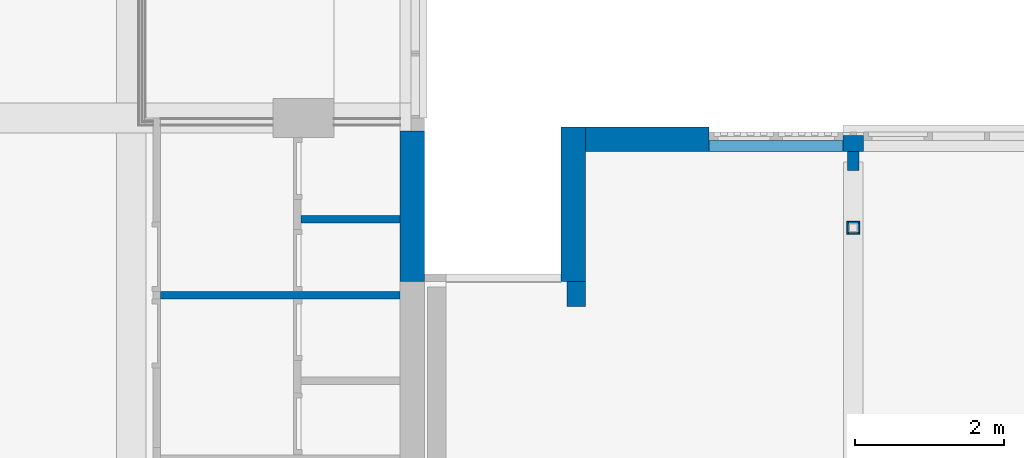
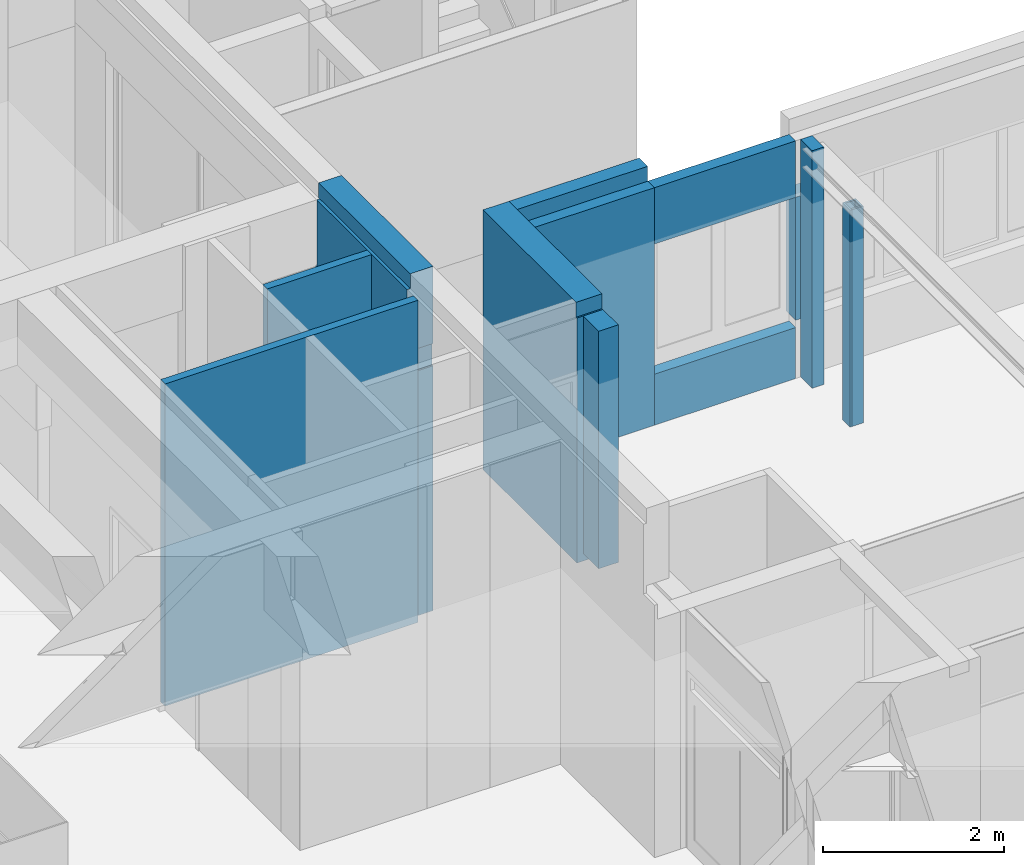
# One storey, part 62 of 117: 14 walls.
"""IFC2X3 building model written with IfcOpenShell, lengths in millimetres."""

from ifc_helpers import new_model, entity, si_unit, converted_unit, derived_unit, money_unit, direction, frame, origin_with_axes, place, context, subcontext, project, spatial, faceted_brep, material, type_object, element, save


model = new_model("IFC2X3")

# Units and contexts
model_context = context("Model", 3, precision=0.01, world=origin_with_axes(), true_north=direction((0.0, 1.0)))
body_context = subcontext(model_context, "Body", "Model", "MODEL_VIEW")
ifc_project = project(units=[si_unit("LENGTHUNIT", "METRE", prefix="MILLI"), si_unit("AREAUNIT", "SQUARE_METRE"), si_unit("VOLUMEUNIT", "CUBIC_METRE"), converted_unit("PLANEANGLEUNIT", "DEGREE", entity("IfcPlaneAngleMeasure", 0.0174532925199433), si_unit("PLANEANGLEUNIT", "RADIAN"), dimensions=[0, 0, 0, 0, 0, 0, 0]), money_unit("EUR"), converted_unit("TIMEUNIT", "Year", entity("IfcTimeMeasure", 31557600.0), si_unit("TIMEUNIT", "SECOND"), dimensions=[0, 0, 1, 0, 0, 0, 0]), si_unit("MASSUNIT", "GRAM", prefix="KILO"), si_unit("THERMODYNAMICTEMPERATUREUNIT", "DEGREE_CELSIUS"), si_unit("LUMINOUSINTENSITYUNIT", "LUMEN"), si_unit("ENERGYUNIT", "JOULE", prefix="MEGA"), derived_unit("THERMALCONDUCTANCEUNIT", [(si_unit("POWERUNIT", "WATT"), 1), (si_unit("LENGTHUNIT", "METRE"), -1), (si_unit("THERMODYNAMICTEMPERATUREUNIT", "KELVIN"), -1)]), derived_unit("SPECIFICHEATCAPACITYUNIT", [(si_unit("ENERGYUNIT", "JOULE"), 1), (si_unit("MASSUNIT", "GRAM", prefix="KILO"), -1), (si_unit("THERMODYNAMICTEMPERATUREUNIT", "KELVIN"), -1)]), derived_unit("MASSDENSITYUNIT", [(si_unit("MASSUNIT", "GRAM", prefix="KILO"), 1), (si_unit("VOLUMEUNIT", "CUBIC_METRE"), -1)])], contexts=[model_context])

# Site, building, storey
site_placement = place(None, origin_with_axes())
site = spatial("IfcSite", under=ifc_project, at=site_placement, Name="Site", CompositionType="ELEMENT")
building_placement = place(site_placement, origin_with_axes())
building = spatial("IfcBuilding", under=site, at=building_placement, Name="Naam gebouw", CompositionType="ELEMENT")
storey_placement = place(building_placement, frame((0.0, 0.0, 4150.0), z_axis=(0.0, 0.0, 1.0), x_axis=(1.0, 0.0, 0.0)))
storey = spatial("IfcBuildingStorey", under=building, at=storey_placement, Name="1e verdieping N", CompositionType="ELEMENT", Elevation=4150.0)

# Walls
ifc_material_1 = material(Name="ALG - CONSTRUCTIEF")
wall_type_1 = type_object("IfcWallType", Name="ALG - CONSTRUCTIEF 150", PredefinedType="NOTDEFINED")
wall_1_placement = place(storey_placement, frame((36000.0, 27250.91242510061, -99.99999999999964), z_axis=(0.0, 0.0, 1.0), x_axis=(0.0, 1.0, 0.0)))
element("IfcWall", 1, at=wall_1_placement, inside=storey, type_object=wall_type_1, material=ifc_material_1, Name="_Wand-x", context=body_context, shape_type="Brep", body=[
    faceted_brep([(255.0000000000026, -75.00000000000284, 3300.0), (0.0, -75.00000000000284, 3300.0), (0.0, -75.00000000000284, 99.99999999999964), (255.0000000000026, -75.00000000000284, 99.99999999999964), (255.0000000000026, 75.00000000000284, 3300.0), (0.0, 75.00000000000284, 3300.0), (0.0, 75.00000000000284, 99.99999999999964), (255.0000000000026, 75.00000000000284, 99.99999999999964)], [[[0, 1, 2, 3]], [[4, 5, 1, 0]], [[1, 5, 6, 2]], [[2, 6, 7, 3]], [[4, 0, 3, 7]], [[5, 4, 7, 6]]]),
])
wall_type_2 = type_object("IfcWallType", Name="ALG - CONSTRUCTIEF 100", PredefinedType="NOTDEFINED")
wall_2_placement = place(storey_placement, frame((29945.0, 25525.76582988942, -99.99999999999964), z_axis=(0.0, 0.0, 1.0), x_axis=(-1.0, 0.0, 0.0)))
element("IfcWall", 2, at=wall_2_placement, inside=storey, type_object=wall_type_2, material=ifc_material_1, Name="_Wand-x", context=body_context, shape_type="Brep", body=[
    faceted_brep([(39.00000000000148, 0.0, 4439.999999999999), (39.00000000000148, 0.0, 99.99999999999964), (39.00000000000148, -100.0000000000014, 99.99999999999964), (39.00000000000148, -100.0000000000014, 4439.999999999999), (3259.0, 0.0, 4439.999999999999), (3259.0, 0.0, 99.99999999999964), (3259.0, -100.0000000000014, 99.99999999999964), (3259.0, -100.0000000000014, 4439.999999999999)], [[[0, 1, 2, 3]], [[4, 5, 1, 0]], [[5, 6, 2, 1]], [[3, 2, 6, 7]], [[3, 7, 4, 0]], [[7, 6, 5, 4]]]),
])
wall_3_placement = place(storey_placement, frame((29945.0, 26543.41242927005, -99.99999999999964), z_axis=(0.0, 0.0, 1.0), x_axis=(-1.0, 0.0, 0.0)))
element("IfcWall", 3, at=wall_3_placement, inside=storey, type_object=wall_type_2, material=ifc_material_1, Name="_Wand-x", context=body_context, shape_type="Brep", body=[
    faceted_brep([(39.00000000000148, 0.0, 4439.999999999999), (39.00000000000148, 0.0, 99.99999999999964), (39.00000000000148, -100.0000000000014, 99.99999999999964), (39.00000000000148, -100.0000000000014, 4439.999999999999), (1369.0, 0.0, 4439.999999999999), (1369.0, 0.0, 99.99999999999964), (1369.0, -100.0000000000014, 99.99999999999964), (1369.0, -100.0000000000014, 4439.999999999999)], [[[0, 1, 2, 3]], [[4, 5, 1, 0]], [[5, 6, 2, 1]], [[3, 2, 6, 7]], [[3, 7, 4, 0]], [[7, 6, 5, 4]]]),
])
wall_type_3 = type_object("IfcWallType", Name="ALG - CONSTRUCTIEF 330", PredefinedType="NOTDEFINED")
wall_4_placement = place(storey_placement, frame((32399.99999999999, 27505.91242510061, -99.99999999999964), z_axis=(0.0, 0.0, 1.0), x_axis=(0.0, -1.0, 0.0)))
element("IfcWall", 4, at=wall_4_placement, inside=storey, type_object=wall_type_3, material=ifc_material_1, Name="_Wand-x", context=body_context, shape_type="Brep", body=[
    faceted_brep([(-329.9999999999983, -329.9999999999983, 3500.0), (1724.497890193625, -329.9999999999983, 3500.0), (1724.497890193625, 0.0, 3500.0), (-329.9999999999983, 0.0, 3500.0), (1745.015399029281, -329.9999999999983, 3300.0), (1724.497890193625, -329.9999999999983, 3300.0), (-329.9999999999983, -329.9999999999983, 0.0), (1745.015399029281, -329.9999999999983, 0.0), (1724.497890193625, 0.0, 3300.0), (1745.015399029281, 0.0, 3300.0), (1745.015399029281, 0.0, 0.0), (-329.9999999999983, 0.0, 0.0)], [[[0, 1, 2, 3]], [[4, 5, 1, 0, 6, 7]], [[5, 8, 2, 1]], [[2, 8, 9, 10, 11, 3]], [[11, 6, 0, 3]], [[4, 9, 8, 5]], [[11, 10, 7, 6]], [[10, 9, 4, 7]]]),
])
wall_5_placement = place(storey_placement, frame((29906.0, 27780.91242510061, -99.99999999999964), z_axis=(0.0, 0.0, 1.0), x_axis=(0.0, -1.0, 0.0)))
element("IfcWall", 5, at=wall_5_placement, inside=storey, type_object=wall_type_3, material=ifc_material_1, Name="_Wand-x", context=body_context, shape_type="Brep", body=[
    faceted_brep([(0.0, 0.0, 99.99999999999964), (0.0, 0.0, 3549.999999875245), (0.0, 149.999999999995, 3549.999999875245), (0.0, 149.9999999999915, 4439.999999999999), (0.0, 39.00000000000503, 4439.999999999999), (0.0, 39.00000000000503, 4639.999999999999), (0.0, 330.0000000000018, 4639.999999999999), (0.0, 329.9999999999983, 0.0), (0.0, 0.0, 0.0), (25.00000000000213, 0.0, 4189.999999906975), (25.00000000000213, 0.0, 3549.999999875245), (2020.01539902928, 0.0, 99.99999999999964), (2020.01539902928, 0.0, 4439.999999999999), (25.00000000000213, 0.0, 4439.999999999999), (25.00000000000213, 149.999999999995, 3549.999999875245), (25.00000000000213, 149.9999999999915, 4439.999999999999), (25.00000000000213, 39.00000000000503, 4439.999999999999), (2020.01539902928, 39.00000000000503, 4439.999999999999), (2020.01539902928, 39.00000000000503, 4639.999999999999), (2020.01539902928, 329.9999999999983, 4639.999999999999), (2020.01539902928, 329.9999999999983, 3600.0), (1999.497890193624, 329.9999999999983, 3600.0), (1999.497890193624, 329.9999999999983, 3300.0), (2020.01539902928, 329.9999999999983, 3300.0), (2020.01539902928, 329.9999999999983, 0.0), (2020.015399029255, 10.53216587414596, 0.0), (2020.015399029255, 10.53216587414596, 99.99999999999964), (2020.01539902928, 39.00000000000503, 3300.0), (2020.01539902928, 39.00000000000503, 3600.0), (1999.497890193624, 39.00000000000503, 3600.0), (1999.497890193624, 39.00000000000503, 3300.0)], [[[0, 1, 2, 3, 4, 5, 6, 7, 8]], [[9, 10, 1, 0, 11, 12, 13]], [[14, 2, 1, 10]], [[15, 3, 2, 14]], [[16, 4, 3, 15]], [[5, 4, 16, 17, 18]], [[19, 6, 5, 18]], [[20, 21, 22, 23, 24, 7, 6, 19]], [[7, 24, 25, 8]], [[0, 8, 25, 26]], [[15, 14, 10, 9, 13, 16]], [[11, 0, 26]], [[12, 11, 26, 25, 24, 23, 27, 28, 20, 19, 18, 17]], [[17, 16, 13, 12]], [[28, 29, 21, 20]], [[29, 30, 22, 21]], [[30, 27, 23, 22]], [[30, 29, 28, 27]]]),
])
wall_6_placement = place(storey_placement, frame((34062.5, 27505.91242510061, -99.99999999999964), z_axis=(0.0, 0.0, 1.0), x_axis=(-1.0, 0.0, 0.0)))
element("IfcWall", 6, at=wall_6_placement, inside=storey, type_object=wall_type_3, material=ifc_material_1, Name="_Wand-x", context=body_context, shape_type="Brep", body=[
    faceted_brep([(0.0, 0.0, 99.99999999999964), (0.0, -145.9999999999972, 99.99999999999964), (0.0, -145.9999999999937, 0.0), (0.0, -329.9999999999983, 0.0), (0.0, -329.9999999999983, 3500.0), (0.0, -146.0447346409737, 3500.0), (0.0, -146.0447346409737, 3300.0), (0.0, 0.0, 3300.0), (1662.500000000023, -145.9999999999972, 99.99999999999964), (1662.500000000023, 0.0, 99.99999999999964), (1662.500000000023, -145.9999999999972, 0.0), (1662.500000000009, -330.0000000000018, 0.0), (1662.500000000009, -329.9999999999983, 3500.0), (1662.500000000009, -146.0860520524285, 3500.0), (1662.500000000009, -146.0860520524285, 3300.0), (1662.500000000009, 0.0, 3300.0)], [[[0, 1, 2, 3, 4, 5, 6, 7]], [[8, 1, 0, 9]], [[10, 2, 1, 8]], [[3, 2, 10, 11]], [[4, 3, 11, 12]], [[12, 13, 5, 4]], [[14, 6, 5, 13]], [[15, 7, 6, 14]], [[15, 9, 0, 7]], [[10, 8, 9, 15, 14, 13, 12, 11]]]),
])
wall_type_4 = type_object("IfcWallType", Name="ALG - CONSTRUCTIEF 250", PredefinedType="NOTDEFINED")
wall_7_placement = place(storey_placement, frame((32274.99999999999, 25420.91242510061, -99.99999999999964), z_axis=(0.0, 0.0, 1.0), x_axis=(0.0, 1.0, 0.0)))
element("IfcWall", 7, at=wall_7_placement, inside=storey, type_object=wall_type_4, material=ifc_material_1, Name="_Wand-x", context=body_context, shape_type="Brep", body=[
    faceted_brep([(0.0, -125.0, 3300.0), (0.0, -125.0, 99.99999999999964), (339.9846009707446, -124.9999999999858, 99.99999999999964), (339.9846009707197, -125.0, 3300.0), (0.0, 125.0, 3300.0), (0.0, 125.0, 99.99999999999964), (339.9846009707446, 125.0, 99.99999999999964), (339.9846009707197, 125.0, 3300.0)], [[[0, 1, 2, 3]], [[4, 5, 1, 0]], [[5, 6, 2, 1]], [[3, 2, 6, 7]], [[4, 0, 3, 7]], [[7, 6, 5, 4]]]),
])
wall_type_5 = type_object("IfcWallType", Name="ALG - CONSTRUCTIEF 146", PredefinedType="NOTDEFINED")
wall_8_placement = place(storey_placement, frame((35862.49999999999, 27505.91242510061, 0.0), z_axis=(0.0, 0.0, 1.0), x_axis=(-1.0, 0.0, 0.0)))
element("IfcWall", 8, at=wall_8_placement, inside=storey, type_object=wall_type_5, material=ifc_material_1, Name="_Wand-x", context=body_context, shape_type="Brep", body=[
    faceted_brep([(0.0, -146.0000000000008, 686.5000000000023), (1799.99999999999, -146.0000000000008, 686.5000000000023), (1799.99999999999, 0.0, 686.5000000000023), (0.0, 0.0, 686.5000000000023), (0.0, -146.0000000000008, 0.0), (1799.99999999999, -146.0000000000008, 0.0), (1799.99999999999, 0.0, 0.0), (0.0, 0.0, 0.0)], [[[0, 1, 2, 3]], [[4, 5, 1, 0]], [[2, 1, 5, 6]], [[3, 2, 6, 7]], [[4, 0, 3, 7]], [[7, 6, 5, 4]]]),
])
wall_9_placement = place(storey_placement, frame((35862.49999999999, 27505.91242510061, 2440.0), z_axis=(0.0, 0.0, 1.0), x_axis=(-1.0, 0.0, 0.0)))
element("IfcWall", 9, at=wall_9_placement, inside=storey, type_object=wall_type_5, material=ifc_material_1, Name="_Wand-x", context=body_context, shape_type="Brep", body=[
    faceted_brep([(0.0, -146.0000000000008, 759.9999999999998), (1799.99999999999, -146.0000000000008, 759.9999999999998), (1799.99999999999, 0.0, 759.9999999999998), (0.0, 0.0, 759.9999999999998), (0.0, -146.0000000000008, 0.0), (1799.99999999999, -146.0000000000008, 0.0), (1799.99999999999, 0.0, 0.0), (0.0, 0.0, 0.0)], [[[0, 1, 2, 3]], [[4, 5, 1, 0]], [[2, 1, 5, 6]], [[3, 2, 6, 7]], [[4, 0, 3, 7]], [[7, 6, 5, 4]]]),
])
ifc_material_2 = material(Name="Gipsplaat")
wall_type_6 = type_object("IfcWallType", Name="Gipsplaat 25", PredefinedType="NOTDEFINED")
wall_10_placement = place(storey_placement, frame((36084.99999999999, 26395.63277746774, 0.0), z_axis=(0.0, 0.0, 1.0), x_axis=(0.0, 1.0, 0.0)))
element("IfcWall", 10, at=wall_10_placement, inside=storey, type_object=wall_type_6, material=ifc_material_2, Name="_Wand-x", context=body_context, shape_type="Brep", body=[
    faceted_brep([(145.0000000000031, 25.00000000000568, 0.0), (145.0000000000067, 0.0, 0.0), (24.99999999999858, 0.0, 0.0), (24.99999999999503, 24.99999999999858, 0.0), (145.0000000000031, 25.00000000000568, 2920.000000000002), (145.0000000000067, 0.0, 2920.000000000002), (24.99999999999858, 0.0, 2920.000000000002), (24.99999999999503, 24.99999999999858, 2920.000000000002)], [[[0, 1, 2, 3]], [[1, 0, 4, 5]], [[1, 5, 6, 2]], [[7, 3, 2, 6]], [[4, 0, 3, 7]], [[5, 4, 7, 6]]]),
])
wall_11_placement = place(storey_placement, frame((35915.0, 26565.63277746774, 0.0), z_axis=(0.0, 0.0, 1.0), x_axis=(1.0, 0.0, 0.0)))
element("IfcWall", 11, at=wall_11_placement, inside=storey, type_object=wall_type_6, material=ifc_material_2, Name="_Wand-x", context=body_context, shape_type="Brep", body=[
    faceted_brep([(170.0000000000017, -24.99999999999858, 2920.000000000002), (170.0000000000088, 0.0, 2920.000000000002), (24.99999999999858, 0.0, 2920.000000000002), (24.99999999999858, -24.99999999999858, 2920.000000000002), (170.0000000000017, -24.99999999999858, 0.0), (170.0000000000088, 0.0, 0.0), (24.99999999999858, 0.0, 0.0), (24.99999999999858, -24.99999999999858, 0.0)], [[[0, 1, 2, 3]], [[1, 0, 4, 5]], [[1, 5, 6, 2]], [[7, 3, 2, 6]], [[4, 0, 3, 7]], [[5, 4, 7, 6]]]),
])
wall_12_placement = place(storey_placement, frame((35915.0, 26395.63277746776, 0.0), z_axis=(0.0, 0.0, 1.0), x_axis=(1.0, 0.0, 0.0)))
element("IfcWall", 12, at=wall_12_placement, inside=storey, type_object=wall_type_6, material=ifc_material_2, Name="_Wand-x", context=body_context, shape_type="Brep", body=[
    faceted_brep([(169.9999999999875, 25.00000000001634, 0.0), (169.9999999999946, 0.0, 0.0), (24.99999999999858, 0.0, 0.0), (24.99999999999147, 25.00000000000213, 0.0), (169.9999999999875, 25.00000000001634, 2920.000000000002), (169.9999999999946, 0.0, 2920.000000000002), (24.99999999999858, 0.0, 2920.000000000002), (24.99999999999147, 25.00000000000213, 2920.000000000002)], [[[0, 1, 2, 3]], [[1, 0, 4, 5]], [[1, 5, 6, 2]], [[7, 3, 2, 6]], [[4, 0, 3, 7]], [[5, 4, 7, 6]]]),
])
wall_13_placement = place(storey_placement, frame((35915.0, 26395.63277746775, 0.0), z_axis=(0.0, 0.0, 1.0), x_axis=(0.0, 1.0, 0.0)))
element("IfcWall", 13, at=wall_13_placement, inside=storey, type_object=wall_type_6, material=ifc_material_2, Name="_Wand-x", context=body_context, shape_type="Brep", body=[
    faceted_brep([(169.999999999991, -24.99999999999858, 2920.000000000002), (169.999999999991, 0.0, 2920.000000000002), (0.0, 0.0, 2920.000000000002), (0.0, -24.99999999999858, 2920.000000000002), (169.999999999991, -24.99999999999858, 0.0), (169.999999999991, 0.0, 0.0), (0.0, 0.0, 0.0), (0.0, -24.99999999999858, 0.0)], [[[0, 1, 2, 3]], [[1, 0, 4, 5]], [[1, 5, 6, 2]], [[7, 3, 2, 6]], [[4, 0, 3, 7]], [[5, 4, 7, 6]]]),
])
ifc_material_3 = material(Name="ALG - GEVEL")
wall_type_7 = type_object("IfcWallType", Name="ALG - GEVEL 260", PredefinedType="NOTDEFINED")
wall_14_placement = place(storey_placement, frame((36137.49999999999, 27765.91242510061, 783.0000000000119), z_axis=(0.0, 0.0, 1.0), x_axis=(-1.0, 0.0, 0.0)))
element("IfcWall", 14, at=wall_14_placement, inside=storey, type_object=wall_type_7, material=ifc_material_3, Name="_Wand-x", context=body_context, shape_type="Brep", body=[
    faceted_brep([(0.0, 43.99999999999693, 1656.999999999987), (0.0, 43.99999999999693, 0.0), (275.0000000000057, 43.99999999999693, 0.0), (275.0000000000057, 43.99999999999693, 1656.999999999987), (0.0, 260.0000000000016, 0.0), (0.0, 260.0000000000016, 1656.999999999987), (275.0000000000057, 260.0000000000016, 0.0), (275.0000000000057, 260.0000000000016, 1656.999999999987)], [[[0, 1, 2, 3]], [[4, 1, 0, 5]], [[2, 1, 4, 6]], [[7, 3, 2, 6]], [[0, 3, 7, 5]], [[6, 4, 5, 7]]]),
])

save(model, "model.ifc")
